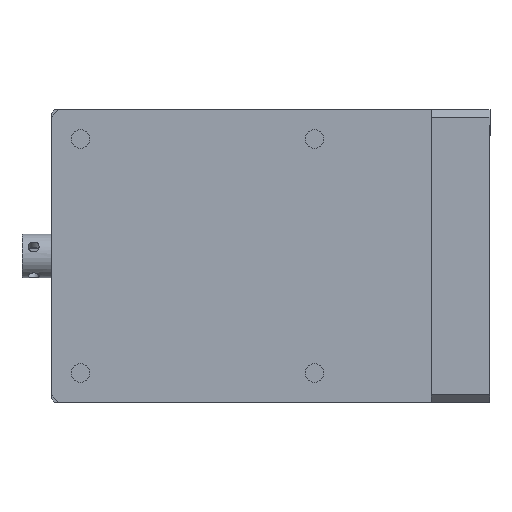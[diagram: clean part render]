
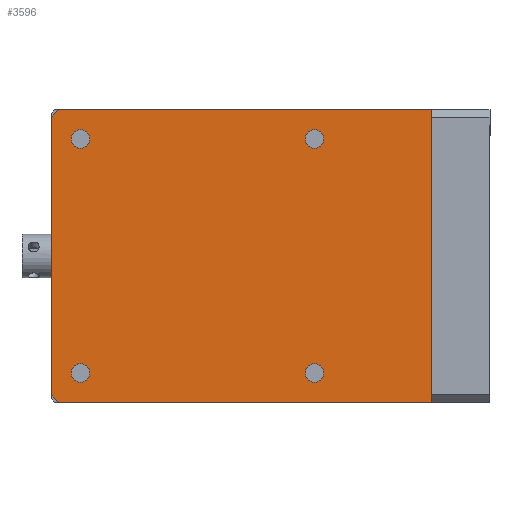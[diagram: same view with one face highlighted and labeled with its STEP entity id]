
A CAD part, front view. The second image highlights one B-rep face of the part: STEP entity #3596.
In plain terms, the highlighted planar face has unit normal (0, -1, 0).
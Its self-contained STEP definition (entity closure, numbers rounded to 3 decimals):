
#6 = DIRECTION ( 'NONE',  ( 0., 0., -1. ) ) ;
#20 = DIRECTION ( 'NONE',  ( 1., 0., 0. ) ) ;
#128 = AXIS2_PLACEMENT_3D ( 'NONE', #2213, #4112, #6036 ) ;
#206 = CIRCLE ( 'NONE', #3297, 1.25 ) ;
#258 = PLANE ( 'NONE',  #3395 ) ;
#284 = FACE_BOUND ( 'NONE', #3246, .T. ) ;
#297 = EDGE_CURVE ( 'NONE', #1251, #5770, #448, .T. ) ;
#424 = EDGE_CURVE ( 'NONE', #3944, #3307, #3479, .T. ) ;
#448 = LINE ( 'NONE', #1402, #5321 ) ;
#487 = EDGE_CURVE ( 'NONE', #3245, #3245, #5730, .T. ) ;
#591 = ORIENTED_EDGE ( 'NONE', *, *, #1430, .T. ) ;
#611 = VERTEX_POINT ( 'NONE', #5751 ) ;
#655 = CARTESIAN_POINT ( 'NONE',  ( 1., -8., 20. ) ) ;
#763 = CARTESIAN_POINT ( 'NONE',  ( 4., -8., -16. ) ) ;
#819 = ORIENTED_EDGE ( 'NONE', *, *, #2602, .F. ) ;
#826 = AXIS2_PLACEMENT_3D ( 'NONE', #2674, #5084, #3638 ) ;
#926 = EDGE_CURVE ( 'NONE', #3399, #3399, #4221, .T. ) ;
#1010 = ORIENTED_EDGE ( 'NONE', *, *, #4718, .F. ) ;
#1106 = DIRECTION ( 'NONE',  ( 0.707, 0., -0.707 ) ) ;
#1187 = FACE_BOUND ( 'NONE', #2696, .T. ) ;
#1251 = VERTEX_POINT ( 'NONE', #1576 ) ;
#1402 = CARTESIAN_POINT ( 'NONE',  ( 0., -8., 20. ) ) ;
#1430 = EDGE_CURVE ( 'NONE', #1251, #611, #5397, .T. ) ;
#1554 = CARTESIAN_POINT ( 'NONE',  ( 53., -8., 20. ) ) ;
#1576 = CARTESIAN_POINT ( 'NONE',  ( 0., -8., -19. ) ) ;
#1625 = LINE ( 'NONE', #655, #2310 ) ;
#1787 = ORIENTED_EDGE ( 'NONE', *, *, #3890, .F. ) ;
#1852 = DIRECTION ( 'NONE',  ( 0., 0., 1. ) ) ;
#1948 = VECTOR ( 'NONE', #3558, 1000. ) ;
#2058 = ORIENTED_EDGE ( 'NONE', *, *, #487, .F. ) ;
#2213 = CARTESIAN_POINT ( 'NONE',  ( 4., -8., 16. ) ) ;
#2224 = CARTESIAN_POINT ( 'NONE',  ( 0., -8., -20. ) ) ;
#2310 = VECTOR ( 'NONE', #3528, 1000. ) ;
#2341 = CARTESIAN_POINT ( 'NONE',  ( 36., -8., 17.25 ) ) ;
#2602 = EDGE_CURVE ( 'NONE', #3307, #2936, #6158, .T. ) ;
#2668 = DIRECTION ( 'NONE',  ( 0., -1., 0. ) ) ;
#2674 = CARTESIAN_POINT ( 'NONE',  ( 36., -8., 16. ) ) ;
#2696 = EDGE_LOOP ( 'NONE', ( #2058 ) ) ;
#2751 = ORIENTED_EDGE ( 'NONE', *, *, #6120, .T. ) ;
#2847 = VECTOR ( 'NONE', #6, 1000. ) ;
#2887 = CARTESIAN_POINT ( 'NONE',  ( 53., -8., 20. ) ) ;
#2934 = CARTESIAN_POINT ( 'NONE',  ( 4., -8., 17.25 ) ) ;
#2936 = VERTEX_POINT ( 'NONE', #4912 ) ;
#2938 = DIRECTION ( 'NONE',  ( 0., -1., 0. ) ) ;
#2939 = ORIENTED_EDGE ( 'NONE', *, *, #3083, .F. ) ;
#3034 = FACE_OUTER_BOUND ( 'NONE', #3036, .T. ) ;
#3036 = EDGE_LOOP ( 'NONE', ( #3870, #2751, #6146, #591, #2939, #819 ) ) ;
#3083 = EDGE_CURVE ( 'NONE', #2936, #611, #6076, .T. ) ;
#3100 = DIRECTION ( 'NONE',  ( 0., 1., 0. ) ) ;
#3120 = VERTEX_POINT ( 'NONE', #4432 ) ;
#3143 = CARTESIAN_POINT ( 'NONE',  ( 0., -8., 19. ) ) ;
#3245 = VERTEX_POINT ( 'NONE', #2341 ) ;
#3246 = EDGE_LOOP ( 'NONE', ( #4857 ) ) ;
#3297 = AXIS2_PLACEMENT_3D ( 'NONE', #4373, #2938, #5317 ) ;
#3307 = VERTEX_POINT ( 'NONE', #1554 ) ;
#3395 = AXIS2_PLACEMENT_3D ( 'NONE', #4507, #3100, #5014 ) ;
#3399 = VERTEX_POINT ( 'NONE', #2934 ) ;
#3471 = FACE_BOUND ( 'NONE', #5864, .T. ) ;
#3479 = LINE ( 'NONE', #4926, #6035 ) ;
#3528 = DIRECTION ( 'NONE',  ( -0.707, 0., -0.707 ) ) ;
#3558 = DIRECTION ( 'NONE',  ( -1., 0., 0. ) ) ;
#3596 = ADVANCED_FACE ( 'NONE', ( #4000, #284, #1187, #3471, #3034 ), #258, .F. ) ;
#3638 = DIRECTION ( 'NONE',  ( 0., 0., 1. ) ) ;
#3676 = CARTESIAN_POINT ( 'NONE',  ( 4., -8., -14.75 ) ) ;
#3870 = ORIENTED_EDGE ( 'NONE', *, *, #424, .F. ) ;
#3890 = EDGE_CURVE ( 'NONE', #3120, #3120, #206, .T. ) ;
#3908 = AXIS2_PLACEMENT_3D ( 'NONE', #763, #2668, #4508 ) ;
#3944 = VERTEX_POINT ( 'NONE', #4913 ) ;
#4000 = FACE_BOUND ( 'NONE', #5953, .T. ) ;
#4112 = DIRECTION ( 'NONE',  ( 0., -1., 0. ) ) ;
#4221 = CIRCLE ( 'NONE', #128, 1.25 ) ;
#4373 = CARTESIAN_POINT ( 'NONE',  ( 36., -8., -16. ) ) ;
#4432 = CARTESIAN_POINT ( 'NONE',  ( 36., -8., -14.75 ) ) ;
#4507 = CARTESIAN_POINT ( 'NONE',  ( 0., -8., 20. ) ) ;
#4508 = DIRECTION ( 'NONE',  ( 0., 0., 1. ) ) ;
#4718 = EDGE_CURVE ( 'NONE', #6099, #6099, #5213, .T. ) ;
#4761 = VECTOR ( 'NONE', #1106, 1000. ) ;
#4857 = ORIENTED_EDGE ( 'NONE', *, *, #926, .F. ) ;
#4912 = CARTESIAN_POINT ( 'NONE',  ( 53., -8., -20. ) ) ;
#4913 = CARTESIAN_POINT ( 'NONE',  ( 1., -8., 20. ) ) ;
#4926 = CARTESIAN_POINT ( 'NONE',  ( 0., -8., 20. ) ) ;
#5014 = DIRECTION ( 'NONE',  ( 0., 0., -1. ) ) ;
#5064 = CARTESIAN_POINT ( 'NONE',  ( 0., -8., -19. ) ) ;
#5084 = DIRECTION ( 'NONE',  ( 0., -1., 0. ) ) ;
#5213 = CIRCLE ( 'NONE', #3908, 1.25 ) ;
#5317 = DIRECTION ( 'NONE',  ( 0., 0., 1. ) ) ;
#5321 = VECTOR ( 'NONE', #1852, 1000. ) ;
#5397 = LINE ( 'NONE', #5064, #4761 ) ;
#5730 = CIRCLE ( 'NONE', #826, 1.25 ) ;
#5751 = CARTESIAN_POINT ( 'NONE',  ( 1., -8., -20. ) ) ;
#5770 = VERTEX_POINT ( 'NONE', #3143 ) ;
#5864 = EDGE_LOOP ( 'NONE', ( #1787 ) ) ;
#5953 = EDGE_LOOP ( 'NONE', ( #1010 ) ) ;
#6035 = VECTOR ( 'NONE', #20, 1000. ) ;
#6036 = DIRECTION ( 'NONE',  ( 0., 0., 1. ) ) ;
#6076 = LINE ( 'NONE', #2224, #1948 ) ;
#6099 = VERTEX_POINT ( 'NONE', #3676 ) ;
#6120 = EDGE_CURVE ( 'NONE', #3944, #5770, #1625, .T. ) ;
#6146 = ORIENTED_EDGE ( 'NONE', *, *, #297, .F. ) ;
#6158 = LINE ( 'NONE', #2887, #2847 ) ;
